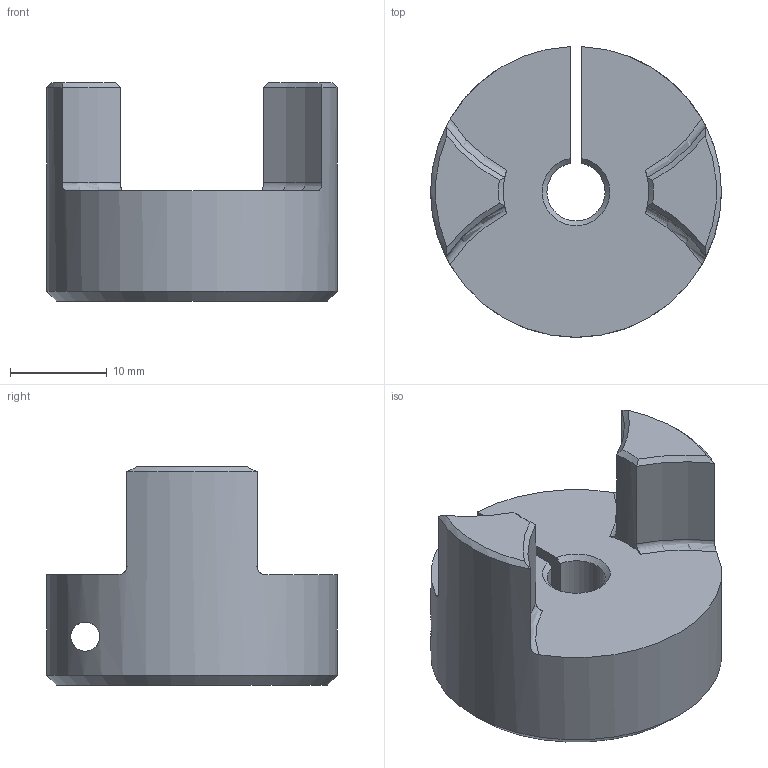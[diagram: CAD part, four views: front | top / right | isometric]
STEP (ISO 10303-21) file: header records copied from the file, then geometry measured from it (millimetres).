
FILE_DESCRIPTION(/* description */ (''),/* implementation_level */ '2;1');
FILE_NAME(/* name */ 'Z:\3D GIFLEX SG\GE-T 14 SG\02514206.stp',/* time_stamp */ '2018-06-25T09:44:15+02:00',/* author */ ('stagistacad'),/* organization */ (''),/* preprocessor_version */ 'ST-DEVELOPER v15.6',/* originating_system */ 'Autodesk Inventor 2015',/* authorisation */ '');
FILE_SCHEMA (('AUTOMOTIVE_DESIGN { 1 0 10303 214 3 1 1 }'));
Length unit declared in the file: millimetre
Products named in the file (1): 02514206
Bounding box: 30 x 29.99 x 22.5 mm (x, y, z)
Volume: 8558.8 mm3; surface area: 3678.5 mm2
Topology: 1 solids, 1 shells, 33 faces, 84 edges, 54 vertices
Faces by surface type: cone 11, cylinder 11, plane 7, torus 4
Full cylindrical faces by diameter (mm): 3 x1, 3.25 x1, 6 x1
Entity records: 1156 total; most frequent: CARTESIAN_POINT 359, DIRECTION 162, ORIENTED_EDGE 158, EDGE_CURVE 79, AXIS2_PLACEMENT_3D 73, VERTEX_POINT 52, EDGE_LOOP 41, CIRCLE 39
